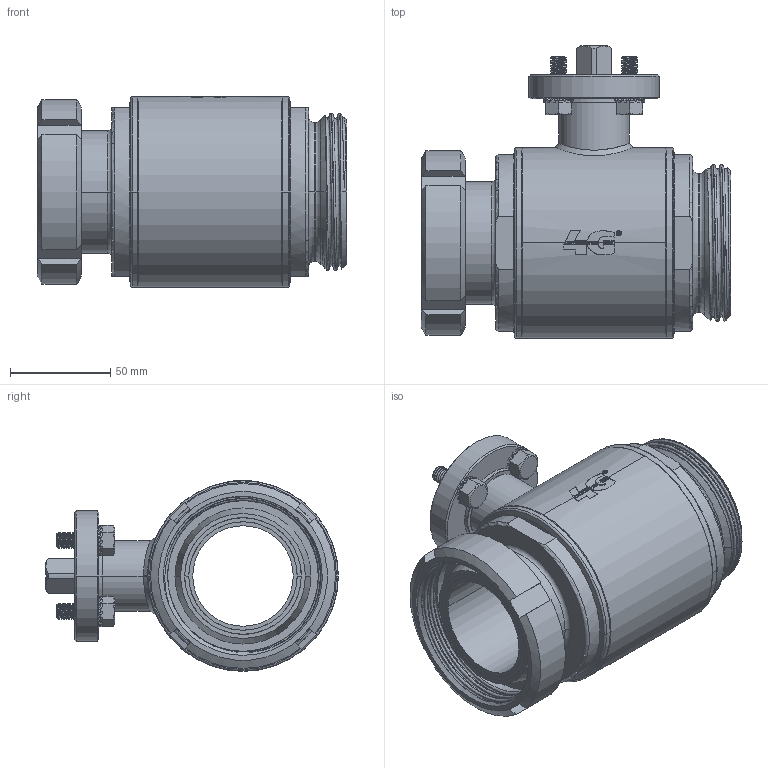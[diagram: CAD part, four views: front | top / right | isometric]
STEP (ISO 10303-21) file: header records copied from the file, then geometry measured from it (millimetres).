
FILE_DESCRIPTION((''),'2;1');
FILE_NAME('1330266381F','2019-04-02T15:22:34',('UFFICIO TECNICO'),('CDM Tecnoconsulting'),'CREO PARAMETRIC BY PTC INC, 2018050','CREO PARAMETRIC BY PTC INC, 2018050','');
FILE_SCHEMA(('CONFIG_CONTROL_DESIGN','SHAPE_APPEARANCE_LAYERS_GROUPS'));
Length unit declared in the file: millimetre
Products named in the file (1): 1330266381F
Bounding box: 154 x 145.75 x 95 mm (x, y, z)
Surface area: 132553 mm2 (no closed solid volume)
Topology: 0 solids, 51 shells, 955 faces, 3162 edges, 2239 vertices
Faces by surface type: cylinder 356, plane 299, cone 134, bspline 83, torus 68, extrusion 11, sphere 4
Entity records: 79733 total; most frequent: CARTESIAN_POINT 45907, ORIENTED_EDGE 5065, DIRECTION 4023, PRESENTATION_STYLE_ASSIGNMENT 3189, STYLED_ITEM 3183, CURVE_STYLE 3160, EDGE_CURVE 3160, VERTEX_POINT 2239
